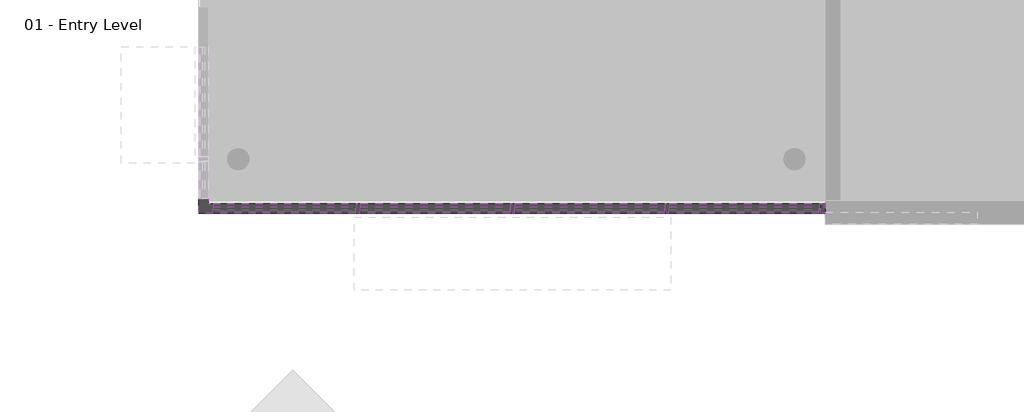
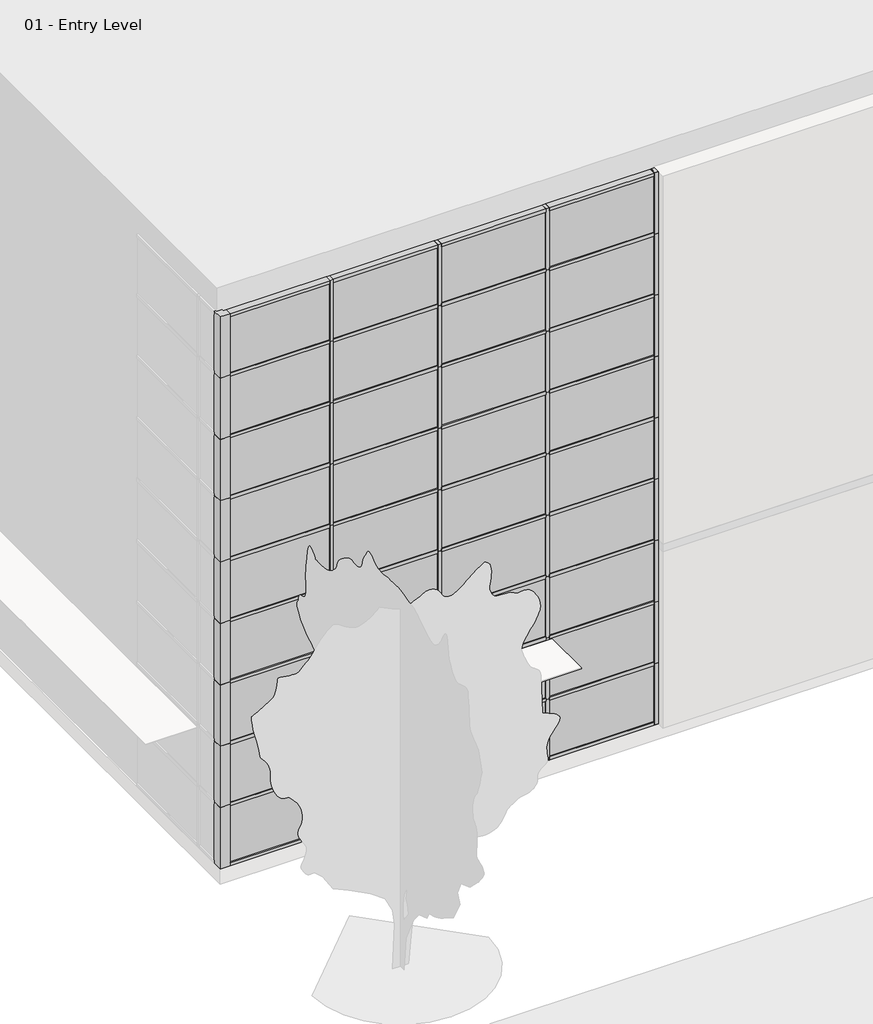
# One storey, part 1 of 34: 94 members, 36 plates.
"""IFC4 building model written with IfcOpenShell, lengths in millimetres."""

from ifc_helpers import new_model, si_unit, origin, place, context, project, spatial, transform, mapped, element, save
from components import member_6230916f, member_2b49869a, member_75074519, member_391b434c, member_9e90ae50, member_9822c4e5, member_b50b2218, system_panel_glazed_1b9d6098, system_panel_glazed_70da479d, system_panel_glazed_01db37db, system_panel_glazed_0a464ab8, system_panel_solid_b376696c, system_panel_solid_77e8b053, system_panel_solid_7d77b356, system_panel_solid_9c486990

model = new_model("IFC4")

# Units and contexts
model_context = context("Model", 3, world=origin())
ifc_project = project(units=[si_unit("LENGTHUNIT", "METRE", prefix="MILLI")], contexts=[model_context])

# Site, building, storey
site = spatial("IfcSite", under=ifc_project)
building = spatial("IfcBuilding", under=site)
storey = spatial("IfcBuildingStorey", under=building, Name="01 - Entry Level", Elevation=0.0)

# Members
placement = place(None, origin())
member_shape = member_6230916f(model_context)
element("IfcMember", 1, ObjectType="L Corner Mullion : 5\" x 5\" Corner", at=placement, inside=storey, context=model_context, shape_type="MappedRepresentation", body=[
    mapped(member_shape, transform((178.7207476, -47.7, 10972.8), x_axis=(-1.0, 0.0, 0.0), y_axis=(0.0, -1.0, 0.0), z_axis=(0.0, 0.0, 1.0))),
])
element("IfcMember", 2, ObjectType="L Corner Mullion : 5\" x 5\" Corner", at=placement, inside=storey, context=model_context, shape_type="MappedRepresentation", body=[
    mapped(member_shape, transform((178.7207476, -47.7, 1219.2), x_axis=(-1.0, 0.0, 0.0), y_axis=(0.0, -1.0, 0.0), z_axis=(0.0, 0.0, 1.0))),
])
element("IfcMember", 3, ObjectType="L Corner Mullion : 5\" x 5\" Corner", at=placement, inside=storey, context=model_context, shape_type="MappedRepresentation", body=[
    mapped(member_shape, transform((178.7207476, -47.7, 2438.4), x_axis=(-1.0, 0.0, 0.0), y_axis=(0.0, -1.0, 0.0), z_axis=(0.0, 0.0, 1.0))),
])
element("IfcMember", 4, ObjectType="L Corner Mullion : 5\" x 5\" Corner", at=placement, inside=storey, context=model_context, shape_type="MappedRepresentation", body=[
    mapped(member_shape, transform((178.7207476, -47.7, 3657.6), x_axis=(-1.0, 0.0, 0.0), y_axis=(0.0, -1.0, 0.0), z_axis=(0.0, 0.0, 1.0))),
])
element("IfcMember", 5, ObjectType="L Corner Mullion : 5\" x 5\" Corner", at=placement, inside=storey, context=model_context, shape_type="MappedRepresentation", body=[
    mapped(member_shape, transform((178.7207476, -47.7, 4876.8), x_axis=(-1.0, 0.0, 0.0), y_axis=(0.0, -1.0, 0.0), z_axis=(0.0, 0.0, 1.0))),
])
element("IfcMember", 6, ObjectType="L Corner Mullion : 5\" x 5\" Corner", at=placement, inside=storey, context=model_context, shape_type="MappedRepresentation", body=[
    mapped(member_shape, transform((178.7207476, -47.7, 6096.0), x_axis=(-1.0, 0.0, 0.0), y_axis=(0.0, -1.0, 0.0), z_axis=(0.0, 0.0, 1.0))),
])
element("IfcMember", 7, ObjectType="L Corner Mullion : 5\" x 5\" Corner", at=placement, inside=storey, context=model_context, shape_type="MappedRepresentation", body=[
    mapped(member_shape, transform((178.7207476, -47.7, 7315.2), x_axis=(-1.0, 0.0, 0.0), y_axis=(0.0, -1.0, 0.0), z_axis=(0.0, 0.0, 1.0))),
])
element("IfcMember", 8, ObjectType="L Corner Mullion : 5\" x 5\" Corner", at=placement, inside=storey, context=model_context, shape_type="MappedRepresentation", body=[
    mapped(member_shape, transform((178.7207476, -47.7, 8534.4), x_axis=(-1.0, 0.0, 0.0), y_axis=(0.0, -1.0, 0.0), z_axis=(0.0, 0.0, 1.0))),
])
element("IfcMember", 9, ObjectType="L Corner Mullion : 5\" x 5\" Corner", at=placement, inside=storey, context=model_context, shape_type="MappedRepresentation", body=[
    mapped(member_shape, transform((178.7207476, -47.7, 9753.6), x_axis=(-1.0, 0.0, 0.0), y_axis=(0.0, -1.0, 0.0), z_axis=(0.0, 0.0, 1.0))),
])
member_2_shape = member_2b49869a(model_context)
element("IfcMember", 10, ObjectType="Rectangular Mullion : 2.5\" x 5\" rectangular", at=placement, inside=storey, context=model_context, shape_type="MappedRepresentation", body=[
    mapped(member_2_shape, transform((2210.7207476, -47.7, 9753.6), x_axis=(1.0, 0.0, 0.0), y_axis=(0.0, -1.0, 0.0), z_axis=(0.0, 0.0, -1.0))),
])
element("IfcMember", 11, ObjectType="Rectangular Mullion : 2.5\" x 5\" rectangular", at=placement, inside=storey, context=model_context, shape_type="MappedRepresentation", body=[
    mapped(member_2_shape, transform((4242.7207476, -47.7, 9753.6), x_axis=(1.0, 0.0, 0.0), y_axis=(0.0, -1.0, 0.0), z_axis=(0.0, 0.0, -1.0))),
])
element("IfcMember", 12, ObjectType="Rectangular Mullion : 2.5\" x 5\" rectangular", at=placement, inside=storey, context=model_context, shape_type="MappedRepresentation", body=[
    mapped(member_2_shape, transform((6274.7207476, -47.7, 9753.6), x_axis=(1.0, 0.0, 0.0), y_axis=(0.0, -1.0, 0.0), z_axis=(0.0, 0.0, -1.0))),
])
element("IfcMember", 13, ObjectType="Rectangular Mullion : 2.5\" x 5\" rectangular", at=placement, inside=storey, context=model_context, shape_type="MappedRepresentation", body=[
    mapped(member_2_shape, transform((8306.7207476, -47.7, 9753.6), x_axis=(1.0, 0.0, 0.0), y_axis=(0.0, -1.0, 0.0), z_axis=(0.0, 0.0, -1.0))),
])
member_3_shape = member_75074519(model_context)
element("IfcMember", 14, ObjectType="Rectangular Mullion : 2.5\" x 5\" rectangular", at=placement, inside=storey, context=model_context, shape_type="MappedRepresentation", body=[
    mapped(member_3_shape, transform((8357.5207476, -47.7, 9753.6), x_axis=(1.0, 0.0, 0.0), y_axis=(0.0, -1.0, 0.0), z_axis=(0.0, 0.0, -1.0))),
])
member_4_shape = member_391b434c(model_context)
element("IfcMember", 15, ObjectType="Rectangular Mullion : 2.5\" x 5\" rectangular", at=placement, inside=storey, context=model_context, shape_type="MappedRepresentation", body=[
    mapped(member_4_shape, transform((4210.9707476, -47.7, 10972.8), x_axis=(0.0, 0.0, 1.0), y_axis=(0.0, -1.0, 0.0), z_axis=(1.0, 0.0, 0.0))),
])
element("IfcMember", 16, ObjectType="Rectangular Mullion : 2.5\" x 5\" rectangular", at=placement, inside=storey, context=model_context, shape_type="MappedRepresentation", body=[
    mapped(member_4_shape, transform((6242.9707476, -47.7, 10972.8), x_axis=(0.0, 0.0, 1.0), y_axis=(0.0, -1.0, 0.0), z_axis=(1.0, 0.0, 0.0))),
])
element("IfcMember", 17, ObjectType="Rectangular Mullion : 2.5\" x 5\" rectangular", at=placement, inside=storey, context=model_context, shape_type="MappedRepresentation", body=[
    mapped(member_4_shape, transform((8274.9707476, -47.7, 10972.8), x_axis=(0.0, 0.0, 1.0), y_axis=(0.0, -1.0, 0.0), z_axis=(1.0, 0.0, 0.0))),
])
element("IfcMember", 18, ObjectType="Rectangular Mullion : 2.5\" x 5\" rectangular", at=placement, inside=storey, context=model_context, shape_type="MappedRepresentation", body=[
    mapped(member_4_shape, transform((2242.4707476, -47.7, 0.0), x_axis=(0.0, 0.0, -1.0), y_axis=(0.0, -1.0, 0.0), z_axis=(-1.0, 0.0, 0.0))),
])
element("IfcMember", 19, ObjectType="Rectangular Mullion : 2.5\" x 5\" rectangular", at=placement, inside=storey, context=model_context, shape_type="MappedRepresentation", body=[
    mapped(member_4_shape, transform((4274.4707476, -47.7, 0.0), x_axis=(0.0, 0.0, -1.0), y_axis=(0.0, -1.0, 0.0), z_axis=(-1.0, 0.0, 0.0))),
])
element("IfcMember", 20, ObjectType="Rectangular Mullion : 2.5\" x 5\" rectangular", at=placement, inside=storey, context=model_context, shape_type="MappedRepresentation", body=[
    mapped(member_4_shape, transform((6306.4707476, -47.7, 0.0), x_axis=(0.0, 0.0, -1.0), y_axis=(0.0, -1.0, 0.0), z_axis=(-1.0, 0.0, 0.0))),
])
member_5_shape = member_9e90ae50(model_context)
element("IfcMember", 21, ObjectType="Rectangular Mullion : 2.5\" x 5\" rectangular", at=placement, inside=storey, context=model_context, shape_type="MappedRepresentation", body=[
    mapped(member_5_shape, transform((4210.9707476, -47.7, 1219.2), x_axis=(0.0, 0.0, 1.0), y_axis=(0.0, -1.0, 0.0), z_axis=(1.0, 0.0, 0.0))),
])
element("IfcMember", 22, ObjectType="Rectangular Mullion : 2.5\" x 5\" rectangular", at=placement, inside=storey, context=model_context, shape_type="MappedRepresentation", body=[
    mapped(member_5_shape, transform((6242.9707476, -47.7, 1219.2), x_axis=(0.0, 0.0, 1.0), y_axis=(0.0, -1.0, 0.0), z_axis=(1.0, 0.0, 0.0))),
])
element("IfcMember", 23, ObjectType="Rectangular Mullion : 2.5\" x 5\" rectangular", at=placement, inside=storey, context=model_context, shape_type="MappedRepresentation", body=[
    mapped(member_5_shape, transform((8274.9707476, -47.7, 1219.2), x_axis=(0.0, 0.0, 1.0), y_axis=(0.0, -1.0, 0.0), z_axis=(1.0, 0.0, 0.0))),
])
element("IfcMember", 24, ObjectType="Rectangular Mullion : 2.5\" x 5\" rectangular", at=placement, inside=storey, context=model_context, shape_type="MappedRepresentation", body=[
    mapped(member_5_shape, transform((4210.9707476, -47.7, 2438.4), x_axis=(0.0, 0.0, 1.0), y_axis=(0.0, -1.0, 0.0), z_axis=(1.0, 0.0, 0.0))),
])
element("IfcMember", 25, ObjectType="Rectangular Mullion : 2.5\" x 5\" rectangular", at=placement, inside=storey, context=model_context, shape_type="MappedRepresentation", body=[
    mapped(member_5_shape, transform((6242.9707476, -47.7, 2438.4), x_axis=(0.0, 0.0, 1.0), y_axis=(0.0, -1.0, 0.0), z_axis=(1.0, 0.0, 0.0))),
])
element("IfcMember", 26, ObjectType="Rectangular Mullion : 2.5\" x 5\" rectangular", at=placement, inside=storey, context=model_context, shape_type="MappedRepresentation", body=[
    mapped(member_5_shape, transform((8274.9707476, -47.7, 2438.4), x_axis=(0.0, 0.0, 1.0), y_axis=(0.0, -1.0, 0.0), z_axis=(1.0, 0.0, 0.0))),
])
element("IfcMember", 27, ObjectType="Rectangular Mullion : 2.5\" x 5\" rectangular", at=placement, inside=storey, context=model_context, shape_type="MappedRepresentation", body=[
    mapped(member_5_shape, transform((4210.9707476, -47.7, 3657.6), x_axis=(0.0, 0.0, 1.0), y_axis=(0.0, -1.0, 0.0), z_axis=(1.0, 0.0, 0.0))),
])
element("IfcMember", 28, ObjectType="Rectangular Mullion : 2.5\" x 5\" rectangular", at=placement, inside=storey, context=model_context, shape_type="MappedRepresentation", body=[
    mapped(member_5_shape, transform((6242.9707476, -47.7, 3657.6), x_axis=(0.0, 0.0, 1.0), y_axis=(0.0, -1.0, 0.0), z_axis=(1.0, 0.0, 0.0))),
])
element("IfcMember", 29, ObjectType="Rectangular Mullion : 2.5\" x 5\" rectangular", at=placement, inside=storey, context=model_context, shape_type="MappedRepresentation", body=[
    mapped(member_5_shape, transform((8274.9707476, -47.7, 3657.6), x_axis=(0.0, 0.0, 1.0), y_axis=(0.0, -1.0, 0.0), z_axis=(1.0, 0.0, 0.0))),
])
element("IfcMember", 30, ObjectType="Rectangular Mullion : 2.5\" x 5\" rectangular", at=placement, inside=storey, context=model_context, shape_type="MappedRepresentation", body=[
    mapped(member_5_shape, transform((4210.9707476, -47.7, 4876.8), x_axis=(0.0, 0.0, 1.0), y_axis=(0.0, -1.0, 0.0), z_axis=(1.0, 0.0, 0.0))),
])
element("IfcMember", 31, ObjectType="Rectangular Mullion : 2.5\" x 5\" rectangular", at=placement, inside=storey, context=model_context, shape_type="MappedRepresentation", body=[
    mapped(member_5_shape, transform((6242.9707476, -47.7, 4876.8), x_axis=(0.0, 0.0, 1.0), y_axis=(0.0, -1.0, 0.0), z_axis=(1.0, 0.0, 0.0))),
])
element("IfcMember", 32, ObjectType="Rectangular Mullion : 2.5\" x 5\" rectangular", at=placement, inside=storey, context=model_context, shape_type="MappedRepresentation", body=[
    mapped(member_5_shape, transform((8274.9707476, -47.7, 4876.8), x_axis=(0.0, 0.0, 1.0), y_axis=(0.0, -1.0, 0.0), z_axis=(1.0, 0.0, 0.0))),
])
element("IfcMember", 33, ObjectType="Rectangular Mullion : 2.5\" x 5\" rectangular", at=placement, inside=storey, context=model_context, shape_type="MappedRepresentation", body=[
    mapped(member_5_shape, transform((4210.9707476, -47.7, 6096.0), x_axis=(0.0, 0.0, 1.0), y_axis=(0.0, -1.0, 0.0), z_axis=(1.0, 0.0, 0.0))),
])
element("IfcMember", 34, ObjectType="Rectangular Mullion : 2.5\" x 5\" rectangular", at=placement, inside=storey, context=model_context, shape_type="MappedRepresentation", body=[
    mapped(member_5_shape, transform((6242.9707476, -47.7, 6096.0), x_axis=(0.0, 0.0, 1.0), y_axis=(0.0, -1.0, 0.0), z_axis=(1.0, 0.0, 0.0))),
])
element("IfcMember", 35, ObjectType="Rectangular Mullion : 2.5\" x 5\" rectangular", at=placement, inside=storey, context=model_context, shape_type="MappedRepresentation", body=[
    mapped(member_5_shape, transform((8274.9707476, -47.7, 6096.0), x_axis=(0.0, 0.0, 1.0), y_axis=(0.0, -1.0, 0.0), z_axis=(1.0, 0.0, 0.0))),
])
element("IfcMember", 36, ObjectType="Rectangular Mullion : 2.5\" x 5\" rectangular", at=placement, inside=storey, context=model_context, shape_type="MappedRepresentation", body=[
    mapped(member_5_shape, transform((4210.9707476, -47.7, 7315.2), x_axis=(0.0, 0.0, 1.0), y_axis=(0.0, -1.0, 0.0), z_axis=(1.0, 0.0, 0.0))),
])
element("IfcMember", 37, ObjectType="Rectangular Mullion : 2.5\" x 5\" rectangular", at=placement, inside=storey, context=model_context, shape_type="MappedRepresentation", body=[
    mapped(member_5_shape, transform((6242.9707476, -47.7, 7315.2), x_axis=(0.0, 0.0, 1.0), y_axis=(0.0, -1.0, 0.0), z_axis=(1.0, 0.0, 0.0))),
])
element("IfcMember", 38, ObjectType="Rectangular Mullion : 2.5\" x 5\" rectangular", at=placement, inside=storey, context=model_context, shape_type="MappedRepresentation", body=[
    mapped(member_5_shape, transform((8274.9707476, -47.7, 7315.2), x_axis=(0.0, 0.0, 1.0), y_axis=(0.0, -1.0, 0.0), z_axis=(1.0, 0.0, 0.0))),
])
element("IfcMember", 39, ObjectType="Rectangular Mullion : 2.5\" x 5\" rectangular", at=placement, inside=storey, context=model_context, shape_type="MappedRepresentation", body=[
    mapped(member_5_shape, transform((4210.9707476, -47.7, 8534.4), x_axis=(0.0, 0.0, 1.0), y_axis=(0.0, -1.0, 0.0), z_axis=(1.0, 0.0, 0.0))),
])
element("IfcMember", 40, ObjectType="Rectangular Mullion : 2.5\" x 5\" rectangular", at=placement, inside=storey, context=model_context, shape_type="MappedRepresentation", body=[
    mapped(member_5_shape, transform((6242.9707476, -47.7, 8534.4), x_axis=(0.0, 0.0, 1.0), y_axis=(0.0, -1.0, 0.0), z_axis=(1.0, 0.0, 0.0))),
])
element("IfcMember", 41, ObjectType="Rectangular Mullion : 2.5\" x 5\" rectangular", at=placement, inside=storey, context=model_context, shape_type="MappedRepresentation", body=[
    mapped(member_5_shape, transform((8274.9707476, -47.7, 8534.4), x_axis=(0.0, 0.0, 1.0), y_axis=(0.0, -1.0, 0.0), z_axis=(1.0, 0.0, 0.0))),
])
element("IfcMember", 42, ObjectType="Rectangular Mullion : 2.5\" x 5\" rectangular", at=placement, inside=storey, context=model_context, shape_type="MappedRepresentation", body=[
    mapped(member_5_shape, transform((4210.9707476, -47.7, 9753.6), x_axis=(0.0, 0.0, 1.0), y_axis=(0.0, -1.0, 0.0), z_axis=(1.0, 0.0, 0.0))),
])
element("IfcMember", 43, ObjectType="Rectangular Mullion : 2.5\" x 5\" rectangular", at=placement, inside=storey, context=model_context, shape_type="MappedRepresentation", body=[
    mapped(member_5_shape, transform((6242.9707476, -47.7, 9753.6), x_axis=(0.0, 0.0, 1.0), y_axis=(0.0, -1.0, 0.0), z_axis=(1.0, 0.0, 0.0))),
])
element("IfcMember", 44, ObjectType="Rectangular Mullion : 2.5\" x 5\" rectangular", at=placement, inside=storey, context=model_context, shape_type="MappedRepresentation", body=[
    mapped(member_5_shape, transform((8274.9707476, -47.7, 9753.6), x_axis=(0.0, 0.0, 1.0), y_axis=(0.0, -1.0, 0.0), z_axis=(1.0, 0.0, 0.0))),
])
element("IfcMember", 45, ObjectType="Rectangular Mullion : 2.5\" x 5\" rectangular", at=placement, inside=storey, context=model_context, shape_type="MappedRepresentation", body=[
    mapped(member_2_shape, transform((2210.7207476, -47.7, 0.0), x_axis=(1.0, 0.0, 0.0), y_axis=(0.0, -1.0, 0.0), z_axis=(0.0, 0.0, -1.0))),
])
element("IfcMember", 46, ObjectType="Rectangular Mullion : 2.5\" x 5\" rectangular", at=placement, inside=storey, context=model_context, shape_type="MappedRepresentation", body=[
    mapped(member_2_shape, transform((4242.7207476, -47.7, 0.0), x_axis=(1.0, 0.0, 0.0), y_axis=(0.0, -1.0, 0.0), z_axis=(0.0, 0.0, -1.0))),
])
element("IfcMember", 47, ObjectType="Rectangular Mullion : 2.5\" x 5\" rectangular", at=placement, inside=storey, context=model_context, shape_type="MappedRepresentation", body=[
    mapped(member_2_shape, transform((6274.7207476, -47.7, 0.0), x_axis=(1.0, 0.0, 0.0), y_axis=(0.0, -1.0, 0.0), z_axis=(0.0, 0.0, -1.0))),
])
element("IfcMember", 48, ObjectType="Rectangular Mullion : 2.5\" x 5\" rectangular", at=placement, inside=storey, context=model_context, shape_type="MappedRepresentation", body=[
    mapped(member_2_shape, transform((8306.7207476, -47.7, 0.0), x_axis=(1.0, 0.0, 0.0), y_axis=(0.0, -1.0, 0.0), z_axis=(0.0, 0.0, -1.0))),
])
element("IfcMember", 49, ObjectType="Rectangular Mullion : 2.5\" x 5\" rectangular", at=placement, inside=storey, context=model_context, shape_type="MappedRepresentation", body=[
    mapped(member_2_shape, transform((2210.7207476, -47.7, 1219.2), x_axis=(1.0, 0.0, 0.0), y_axis=(0.0, -1.0, 0.0), z_axis=(0.0, 0.0, -1.0))),
])
element("IfcMember", 50, ObjectType="Rectangular Mullion : 2.5\" x 5\" rectangular", at=placement, inside=storey, context=model_context, shape_type="MappedRepresentation", body=[
    mapped(member_2_shape, transform((4242.7207476, -47.7, 1219.2), x_axis=(1.0, 0.0, 0.0), y_axis=(0.0, -1.0, 0.0), z_axis=(0.0, 0.0, -1.0))),
])
element("IfcMember", 51, ObjectType="Rectangular Mullion : 2.5\" x 5\" rectangular", at=placement, inside=storey, context=model_context, shape_type="MappedRepresentation", body=[
    mapped(member_2_shape, transform((6274.7207476, -47.7, 1219.2), x_axis=(1.0, 0.0, 0.0), y_axis=(0.0, -1.0, 0.0), z_axis=(0.0, 0.0, -1.0))),
])
element("IfcMember", 52, ObjectType="Rectangular Mullion : 2.5\" x 5\" rectangular", at=placement, inside=storey, context=model_context, shape_type="MappedRepresentation", body=[
    mapped(member_2_shape, transform((2210.7207476, -47.7, 2438.4), x_axis=(1.0, 0.0, 0.0), y_axis=(0.0, -1.0, 0.0), z_axis=(0.0, 0.0, -1.0))),
])
element("IfcMember", 53, ObjectType="Rectangular Mullion : 2.5\" x 5\" rectangular", at=placement, inside=storey, context=model_context, shape_type="MappedRepresentation", body=[
    mapped(member_2_shape, transform((4242.7207476, -47.7, 2438.4), x_axis=(1.0, 0.0, 0.0), y_axis=(0.0, -1.0, 0.0), z_axis=(0.0, 0.0, -1.0))),
])
element("IfcMember", 54, ObjectType="Rectangular Mullion : 2.5\" x 5\" rectangular", at=placement, inside=storey, context=model_context, shape_type="MappedRepresentation", body=[
    mapped(member_2_shape, transform((6274.7207476, -47.7, 2438.4), x_axis=(1.0, 0.0, 0.0), y_axis=(0.0, -1.0, 0.0), z_axis=(0.0, 0.0, -1.0))),
])
element("IfcMember", 55, ObjectType="Rectangular Mullion : 2.5\" x 5\" rectangular", at=placement, inside=storey, context=model_context, shape_type="MappedRepresentation", body=[
    mapped(member_2_shape, transform((2210.7207476, -47.7, 3657.6), x_axis=(1.0, 0.0, 0.0), y_axis=(0.0, -1.0, 0.0), z_axis=(0.0, 0.0, -1.0))),
])
element("IfcMember", 56, ObjectType="Rectangular Mullion : 2.5\" x 5\" rectangular", at=placement, inside=storey, context=model_context, shape_type="MappedRepresentation", body=[
    mapped(member_2_shape, transform((4242.7207476, -47.7, 3657.6), x_axis=(1.0, 0.0, 0.0), y_axis=(0.0, -1.0, 0.0), z_axis=(0.0, 0.0, -1.0))),
])
element("IfcMember", 57, ObjectType="Rectangular Mullion : 2.5\" x 5\" rectangular", at=placement, inside=storey, context=model_context, shape_type="MappedRepresentation", body=[
    mapped(member_2_shape, transform((6274.7207476, -47.7, 3657.6), x_axis=(1.0, 0.0, 0.0), y_axis=(0.0, -1.0, 0.0), z_axis=(0.0, 0.0, -1.0))),
])
element("IfcMember", 58, ObjectType="Rectangular Mullion : 2.5\" x 5\" rectangular", at=placement, inside=storey, context=model_context, shape_type="MappedRepresentation", body=[
    mapped(member_2_shape, transform((2210.7207476, -47.7, 4876.8), x_axis=(1.0, 0.0, 0.0), y_axis=(0.0, -1.0, 0.0), z_axis=(0.0, 0.0, -1.0))),
])
element("IfcMember", 59, ObjectType="Rectangular Mullion : 2.5\" x 5\" rectangular", at=placement, inside=storey, context=model_context, shape_type="MappedRepresentation", body=[
    mapped(member_2_shape, transform((4242.7207476, -47.7, 4876.8), x_axis=(1.0, 0.0, 0.0), y_axis=(0.0, -1.0, 0.0), z_axis=(0.0, 0.0, -1.0))),
])
element("IfcMember", 60, ObjectType="Rectangular Mullion : 2.5\" x 5\" rectangular", at=placement, inside=storey, context=model_context, shape_type="MappedRepresentation", body=[
    mapped(member_2_shape, transform((6274.7207476, -47.7, 4876.8), x_axis=(1.0, 0.0, 0.0), y_axis=(0.0, -1.0, 0.0), z_axis=(0.0, 0.0, -1.0))),
])
element("IfcMember", 61, ObjectType="Rectangular Mullion : 2.5\" x 5\" rectangular", at=placement, inside=storey, context=model_context, shape_type="MappedRepresentation", body=[
    mapped(member_2_shape, transform((2210.7207476, -47.7, 6096.0), x_axis=(1.0, 0.0, 0.0), y_axis=(0.0, -1.0, 0.0), z_axis=(0.0, 0.0, -1.0))),
])
element("IfcMember", 62, ObjectType="Rectangular Mullion : 2.5\" x 5\" rectangular", at=placement, inside=storey, context=model_context, shape_type="MappedRepresentation", body=[
    mapped(member_2_shape, transform((4242.7207476, -47.7, 6096.0), x_axis=(1.0, 0.0, 0.0), y_axis=(0.0, -1.0, 0.0), z_axis=(0.0, 0.0, -1.0))),
])
element("IfcMember", 63, ObjectType="Rectangular Mullion : 2.5\" x 5\" rectangular", at=placement, inside=storey, context=model_context, shape_type="MappedRepresentation", body=[
    mapped(member_2_shape, transform((6274.7207476, -47.7, 6096.0), x_axis=(1.0, 0.0, 0.0), y_axis=(0.0, -1.0, 0.0), z_axis=(0.0, 0.0, -1.0))),
])
element("IfcMember", 64, ObjectType="Rectangular Mullion : 2.5\" x 5\" rectangular", at=placement, inside=storey, context=model_context, shape_type="MappedRepresentation", body=[
    mapped(member_2_shape, transform((2210.7207476, -47.7, 7315.2), x_axis=(1.0, 0.0, 0.0), y_axis=(0.0, -1.0, 0.0), z_axis=(0.0, 0.0, -1.0))),
])
element("IfcMember", 65, ObjectType="Rectangular Mullion : 2.5\" x 5\" rectangular", at=placement, inside=storey, context=model_context, shape_type="MappedRepresentation", body=[
    mapped(member_2_shape, transform((4242.7207476, -47.7, 7315.2), x_axis=(1.0, 0.0, 0.0), y_axis=(0.0, -1.0, 0.0), z_axis=(0.0, 0.0, -1.0))),
])
element("IfcMember", 66, ObjectType="Rectangular Mullion : 2.5\" x 5\" rectangular", at=placement, inside=storey, context=model_context, shape_type="MappedRepresentation", body=[
    mapped(member_2_shape, transform((6274.7207476, -47.7, 7315.2), x_axis=(1.0, 0.0, 0.0), y_axis=(0.0, -1.0, 0.0), z_axis=(0.0, 0.0, -1.0))),
])
element("IfcMember", 67, ObjectType="Rectangular Mullion : 2.5\" x 5\" rectangular", at=placement, inside=storey, context=model_context, shape_type="MappedRepresentation", body=[
    mapped(member_2_shape, transform((2210.7207476, -47.7, 8534.4), x_axis=(1.0, 0.0, 0.0), y_axis=(0.0, -1.0, 0.0), z_axis=(0.0, 0.0, -1.0))),
])
element("IfcMember", 68, ObjectType="Rectangular Mullion : 2.5\" x 5\" rectangular", at=placement, inside=storey, context=model_context, shape_type="MappedRepresentation", body=[
    mapped(member_2_shape, transform((4242.7207476, -47.7, 8534.4), x_axis=(1.0, 0.0, 0.0), y_axis=(0.0, -1.0, 0.0), z_axis=(0.0, 0.0, -1.0))),
])
element("IfcMember", 69, ObjectType="Rectangular Mullion : 2.5\" x 5\" rectangular", at=placement, inside=storey, context=model_context, shape_type="MappedRepresentation", body=[
    mapped(member_2_shape, transform((6274.7207476, -47.7, 8534.4), x_axis=(1.0, 0.0, 0.0), y_axis=(0.0, -1.0, 0.0), z_axis=(0.0, 0.0, -1.0))),
])
element("IfcMember", 70, ObjectType="Rectangular Mullion : 2.5\" x 5\" rectangular", at=placement, inside=storey, context=model_context, shape_type="MappedRepresentation", body=[
    mapped(member_2_shape, transform((8306.7207476, -47.7, 1219.2), x_axis=(1.0, 0.0, 0.0), y_axis=(0.0, -1.0, 0.0), z_axis=(0.0, 0.0, -1.0))),
])
element("IfcMember", 71, ObjectType="Rectangular Mullion : 2.5\" x 5\" rectangular", at=placement, inside=storey, context=model_context, shape_type="MappedRepresentation", body=[
    mapped(member_2_shape, transform((8306.7207476, -47.7, 2438.4), x_axis=(1.0, 0.0, 0.0), y_axis=(0.0, -1.0, 0.0), z_axis=(0.0, 0.0, -1.0))),
])
element("IfcMember", 72, ObjectType="Rectangular Mullion : 2.5\" x 5\" rectangular", at=placement, inside=storey, context=model_context, shape_type="MappedRepresentation", body=[
    mapped(member_2_shape, transform((8306.7207476, -47.7, 3657.6), x_axis=(1.0, 0.0, 0.0), y_axis=(0.0, -1.0, 0.0), z_axis=(0.0, 0.0, -1.0))),
])
element("IfcMember", 73, ObjectType="Rectangular Mullion : 2.5\" x 5\" rectangular", at=placement, inside=storey, context=model_context, shape_type="MappedRepresentation", body=[
    mapped(member_2_shape, transform((8306.7207476, -47.7, 4876.8), x_axis=(1.0, 0.0, 0.0), y_axis=(0.0, -1.0, 0.0), z_axis=(0.0, 0.0, -1.0))),
])
element("IfcMember", 74, ObjectType="Rectangular Mullion : 2.5\" x 5\" rectangular", at=placement, inside=storey, context=model_context, shape_type="MappedRepresentation", body=[
    mapped(member_2_shape, transform((8306.7207476, -47.7, 6096.0), x_axis=(1.0, 0.0, 0.0), y_axis=(0.0, -1.0, 0.0), z_axis=(0.0, 0.0, -1.0))),
])
element("IfcMember", 75, ObjectType="Rectangular Mullion : 2.5\" x 5\" rectangular", at=placement, inside=storey, context=model_context, shape_type="MappedRepresentation", body=[
    mapped(member_2_shape, transform((8306.7207476, -47.7, 7315.2), x_axis=(1.0, 0.0, 0.0), y_axis=(0.0, -1.0, 0.0), z_axis=(0.0, 0.0, -1.0))),
])
element("IfcMember", 76, ObjectType="Rectangular Mullion : 2.5\" x 5\" rectangular", at=placement, inside=storey, context=model_context, shape_type="MappedRepresentation", body=[
    mapped(member_2_shape, transform((8306.7207476, -47.7, 8534.4), x_axis=(1.0, 0.0, 0.0), y_axis=(0.0, -1.0, 0.0), z_axis=(0.0, 0.0, -1.0))),
])
element("IfcMember", 77, ObjectType="Rectangular Mullion : 2.5\" x 5\" rectangular", at=placement, inside=storey, context=model_context, shape_type="MappedRepresentation", body=[
    mapped(member_3_shape, transform((8357.5207476, -47.7, 0.0), x_axis=(1.0, 0.0, 0.0), y_axis=(0.0, -1.0, 0.0), z_axis=(0.0, 0.0, -1.0))),
])
element("IfcMember", 78, ObjectType="Rectangular Mullion : 2.5\" x 5\" rectangular", at=placement, inside=storey, context=model_context, shape_type="MappedRepresentation", body=[
    mapped(member_3_shape, transform((8357.5207476, -47.7, 1219.2), x_axis=(1.0, 0.0, 0.0), y_axis=(0.0, -1.0, 0.0), z_axis=(0.0, 0.0, -1.0))),
])
element("IfcMember", 79, ObjectType="Rectangular Mullion : 2.5\" x 5\" rectangular", at=placement, inside=storey, context=model_context, shape_type="MappedRepresentation", body=[
    mapped(member_3_shape, transform((8357.5207476, -47.7, 2438.4), x_axis=(1.0, 0.0, 0.0), y_axis=(0.0, -1.0, 0.0), z_axis=(0.0, 0.0, -1.0))),
])
element("IfcMember", 80, ObjectType="Rectangular Mullion : 2.5\" x 5\" rectangular", at=placement, inside=storey, context=model_context, shape_type="MappedRepresentation", body=[
    mapped(member_3_shape, transform((8357.5207476, -47.7, 3657.6), x_axis=(1.0, 0.0, 0.0), y_axis=(0.0, -1.0, 0.0), z_axis=(0.0, 0.0, -1.0))),
])
element("IfcMember", 81, ObjectType="Rectangular Mullion : 2.5\" x 5\" rectangular", at=placement, inside=storey, context=model_context, shape_type="MappedRepresentation", body=[
    mapped(member_3_shape, transform((8357.5207476, -47.7, 4876.8), x_axis=(1.0, 0.0, 0.0), y_axis=(0.0, -1.0, 0.0), z_axis=(0.0, 0.0, -1.0))),
])
element("IfcMember", 82, ObjectType="Rectangular Mullion : 2.5\" x 5\" rectangular", at=placement, inside=storey, context=model_context, shape_type="MappedRepresentation", body=[
    mapped(member_3_shape, transform((8357.5207476, -47.7, 6096.0), x_axis=(1.0, 0.0, 0.0), y_axis=(0.0, -1.0, 0.0), z_axis=(0.0, 0.0, -1.0))),
])
element("IfcMember", 83, ObjectType="Rectangular Mullion : 2.5\" x 5\" rectangular", at=placement, inside=storey, context=model_context, shape_type="MappedRepresentation", body=[
    mapped(member_3_shape, transform((8357.5207476, -47.7, 7315.2), x_axis=(1.0, 0.0, 0.0), y_axis=(0.0, -1.0, 0.0), z_axis=(0.0, 0.0, -1.0))),
])
element("IfcMember", 84, ObjectType="Rectangular Mullion : 2.5\" x 5\" rectangular", at=placement, inside=storey, context=model_context, shape_type="MappedRepresentation", body=[
    mapped(member_3_shape, transform((8357.5207476, -47.7, 8534.4), x_axis=(1.0, 0.0, 0.0), y_axis=(0.0, -1.0, 0.0), z_axis=(0.0, 0.0, -1.0))),
])
member_6_shape = member_9822c4e5(model_context)
element("IfcMember", 85, ObjectType="Rectangular Mullion : 2.5\" x 5\" rectangular", at=placement, inside=storey, context=model_context, shape_type="MappedRepresentation", body=[
    mapped(member_6_shape, transform((2178.9707476, -47.7, 10972.8), x_axis=(0.0, 0.0, 1.0), y_axis=(0.0, -1.0, 0.0), z_axis=(1.0, 0.0, 0.0))),
])
element("IfcMember", 86, ObjectType="Rectangular Mullion : 2.5\" x 5\" rectangular", at=placement, inside=storey, context=model_context, shape_type="MappedRepresentation", body=[
    mapped(member_6_shape, transform((305.7207476, -47.7, 0.0), x_axis=(0.0, 0.0, -1.0), y_axis=(0.0, -1.0, 0.0), z_axis=(-1.0, 0.0, 0.0))),
])
member_7_shape = member_b50b2218(model_context)
element("IfcMember", 87, ObjectType="Rectangular Mullion : 2.5\" x 5\" rectangular", at=placement, inside=storey, context=model_context, shape_type="MappedRepresentation", body=[
    mapped(member_7_shape, transform((2178.9707476, -47.7, 1219.2), x_axis=(0.0, 0.0, 1.0), y_axis=(0.0, -1.0, 0.0), z_axis=(1.0, 0.0, 0.0))),
])
element("IfcMember", 88, ObjectType="Rectangular Mullion : 2.5\" x 5\" rectangular", at=placement, inside=storey, context=model_context, shape_type="MappedRepresentation", body=[
    mapped(member_7_shape, transform((2178.9707476, -47.7, 2438.4), x_axis=(0.0, 0.0, 1.0), y_axis=(0.0, -1.0, 0.0), z_axis=(1.0, 0.0, 0.0))),
])
element("IfcMember", 89, ObjectType="Rectangular Mullion : 2.5\" x 5\" rectangular", at=placement, inside=storey, context=model_context, shape_type="MappedRepresentation", body=[
    mapped(member_7_shape, transform((2178.9707476, -47.7, 3657.6), x_axis=(0.0, 0.0, 1.0), y_axis=(0.0, -1.0, 0.0), z_axis=(1.0, 0.0, 0.0))),
])
element("IfcMember", 90, ObjectType="Rectangular Mullion : 2.5\" x 5\" rectangular", at=placement, inside=storey, context=model_context, shape_type="MappedRepresentation", body=[
    mapped(member_7_shape, transform((2178.9707476, -47.7, 4876.8), x_axis=(0.0, 0.0, 1.0), y_axis=(0.0, -1.0, 0.0), z_axis=(1.0, 0.0, 0.0))),
])
element("IfcMember", 91, ObjectType="Rectangular Mullion : 2.5\" x 5\" rectangular", at=placement, inside=storey, context=model_context, shape_type="MappedRepresentation", body=[
    mapped(member_7_shape, transform((2178.9707476, -47.7, 6096.0), x_axis=(0.0, 0.0, 1.0), y_axis=(0.0, -1.0, 0.0), z_axis=(1.0, 0.0, 0.0))),
])
element("IfcMember", 92, ObjectType="Rectangular Mullion : 2.5\" x 5\" rectangular", at=placement, inside=storey, context=model_context, shape_type="MappedRepresentation", body=[
    mapped(member_7_shape, transform((2178.9707476, -47.7, 7315.2), x_axis=(0.0, 0.0, 1.0), y_axis=(0.0, -1.0, 0.0), z_axis=(1.0, 0.0, 0.0))),
])
element("IfcMember", 93, ObjectType="Rectangular Mullion : 2.5\" x 5\" rectangular", at=placement, inside=storey, context=model_context, shape_type="MappedRepresentation", body=[
    mapped(member_7_shape, transform((2178.9707476, -47.7, 8534.4), x_axis=(0.0, 0.0, 1.0), y_axis=(0.0, -1.0, 0.0), z_axis=(1.0, 0.0, 0.0))),
])
element("IfcMember", 94, ObjectType="Rectangular Mullion : 2.5\" x 5\" rectangular", at=placement, inside=storey, context=model_context, shape_type="MappedRepresentation", body=[
    mapped(member_7_shape, transform((2178.9707476, -47.7, 9753.6), x_axis=(0.0, 0.0, 1.0), y_axis=(0.0, -1.0, 0.0), z_axis=(1.0, 0.0, 0.0))),
])

# Plates
system_panel_glazed_shape = system_panel_glazed_1b9d6098(model_context)
element("IfcPlate", 95, ObjectType="System Panel : Glazed", at=placement, inside=storey, context=model_context, shape_type="MappedRepresentation", body=[
    mapped(system_panel_glazed_shape, transform((3226.7207476, -47.7, 63.5), x_axis=(1.0, 0.0, 0.0), y_axis=(0.0, 1.0, 0.0), z_axis=(0.0, 0.0, 1.0))),
])
element("IfcPlate", 96, ObjectType="System Panel : Glazed", at=placement, inside=storey, context=model_context, shape_type="MappedRepresentation", body=[
    mapped(system_panel_glazed_shape, transform((5258.7207476, -47.7, 63.5), x_axis=(1.0, 0.0, 0.0), y_axis=(0.0, 1.0, 0.0), z_axis=(0.0, 0.0, 1.0))),
])
element("IfcPlate", 97, ObjectType="System Panel : Glazed", at=placement, inside=storey, context=model_context, shape_type="MappedRepresentation", body=[
    mapped(system_panel_glazed_shape, transform((7290.7207476, -47.7, 63.5), x_axis=(1.0, 0.0, 0.0), y_axis=(0.0, 1.0, 0.0), z_axis=(0.0, 0.0, 1.0))),
])
system_panel_glazed_2_shape = system_panel_glazed_70da479d(model_context)
element("IfcPlate", 98, ObjectType="System Panel : Glazed", at=placement, inside=storey, context=model_context, shape_type="MappedRepresentation", body=[
    mapped(system_panel_glazed_2_shape, transform((3226.7207476, -47.7, 1250.95), x_axis=(1.0, 0.0, 0.0), y_axis=(0.0, 1.0, 0.0), z_axis=(0.0, 0.0, 1.0))),
])
element("IfcPlate", 99, ObjectType="System Panel : Glazed", at=placement, inside=storey, context=model_context, shape_type="MappedRepresentation", body=[
    mapped(system_panel_glazed_2_shape, transform((5258.7207476, -47.7, 1250.95), x_axis=(1.0, 0.0, 0.0), y_axis=(0.0, 1.0, 0.0), z_axis=(0.0, 0.0, 1.0))),
])
element("IfcPlate", 100, ObjectType="System Panel : Glazed", at=placement, inside=storey, context=model_context, shape_type="MappedRepresentation", body=[
    mapped(system_panel_glazed_2_shape, transform((7290.7207476, -47.7, 1250.95), x_axis=(1.0, 0.0, 0.0), y_axis=(0.0, 1.0, 0.0), z_axis=(0.0, 0.0, 1.0))),
])
element("IfcPlate", 101, ObjectType="System Panel : Glazed", at=placement, inside=storey, context=model_context, shape_type="MappedRepresentation", body=[
    mapped(system_panel_glazed_2_shape, transform((3226.7207476, -47.7, 3689.35), x_axis=(1.0, 0.0, 0.0), y_axis=(0.0, 1.0, 0.0), z_axis=(0.0, 0.0, 1.0))),
])
element("IfcPlate", 102, ObjectType="System Panel : Glazed", at=placement, inside=storey, context=model_context, shape_type="MappedRepresentation", body=[
    mapped(system_panel_glazed_2_shape, transform((5258.7207476, -47.7, 3689.35), x_axis=(1.0, 0.0, 0.0), y_axis=(0.0, 1.0, 0.0), z_axis=(0.0, 0.0, 1.0))),
])
element("IfcPlate", 103, ObjectType="System Panel : Glazed", at=placement, inside=storey, context=model_context, shape_type="MappedRepresentation", body=[
    mapped(system_panel_glazed_2_shape, transform((7290.7207476, -47.7, 3689.35), x_axis=(1.0, 0.0, 0.0), y_axis=(0.0, 1.0, 0.0), z_axis=(0.0, 0.0, 1.0))),
])
element("IfcPlate", 104, ObjectType="System Panel : Glazed", at=placement, inside=storey, context=model_context, shape_type="MappedRepresentation", body=[
    mapped(system_panel_glazed_2_shape, transform((3226.7207476, -47.7, 4908.55), x_axis=(1.0, 0.0, 0.0), y_axis=(0.0, 1.0, 0.0), z_axis=(0.0, 0.0, 1.0))),
])
element("IfcPlate", 105, ObjectType="System Panel : Glazed", at=placement, inside=storey, context=model_context, shape_type="MappedRepresentation", body=[
    mapped(system_panel_glazed_2_shape, transform((5258.7207476, -47.7, 4908.55), x_axis=(1.0, 0.0, 0.0), y_axis=(0.0, 1.0, 0.0), z_axis=(0.0, 0.0, 1.0))),
])
element("IfcPlate", 106, ObjectType="System Panel : Glazed", at=placement, inside=storey, context=model_context, shape_type="MappedRepresentation", body=[
    mapped(system_panel_glazed_2_shape, transform((7290.7207476, -47.7, 4908.55), x_axis=(1.0, 0.0, 0.0), y_axis=(0.0, 1.0, 0.0), z_axis=(0.0, 0.0, 1.0))),
])
element("IfcPlate", 107, ObjectType="System Panel : Glazed", at=placement, inside=storey, context=model_context, shape_type="MappedRepresentation", body=[
    mapped(system_panel_glazed_2_shape, transform((3226.7207476, -47.7, 7346.95), x_axis=(1.0, 0.0, 0.0), y_axis=(0.0, 1.0, 0.0), z_axis=(0.0, 0.0, 1.0))),
])
element("IfcPlate", 108, ObjectType="System Panel : Glazed", at=placement, inside=storey, context=model_context, shape_type="MappedRepresentation", body=[
    mapped(system_panel_glazed_2_shape, transform((5258.7207476, -47.7, 7346.95), x_axis=(1.0, 0.0, 0.0), y_axis=(0.0, 1.0, 0.0), z_axis=(0.0, 0.0, 1.0))),
])
element("IfcPlate", 109, ObjectType="System Panel : Glazed", at=placement, inside=storey, context=model_context, shape_type="MappedRepresentation", body=[
    mapped(system_panel_glazed_2_shape, transform((7290.7207476, -47.7, 7346.95), x_axis=(1.0, 0.0, 0.0), y_axis=(0.0, 1.0, 0.0), z_axis=(0.0, 0.0, 1.0))),
])
element("IfcPlate", 110, ObjectType="System Panel : Glazed", at=placement, inside=storey, context=model_context, shape_type="MappedRepresentation", body=[
    mapped(system_panel_glazed_2_shape, transform((3226.7207476, -47.7, 8566.15), x_axis=(1.0, 0.0, 0.0), y_axis=(0.0, 1.0, 0.0), z_axis=(0.0, 0.0, 1.0))),
])
element("IfcPlate", 111, ObjectType="System Panel : Glazed", at=placement, inside=storey, context=model_context, shape_type="MappedRepresentation", body=[
    mapped(system_panel_glazed_2_shape, transform((5258.7207476, -47.7, 8566.15), x_axis=(1.0, 0.0, 0.0), y_axis=(0.0, 1.0, 0.0), z_axis=(0.0, 0.0, 1.0))),
])
element("IfcPlate", 112, ObjectType="System Panel : Glazed", at=placement, inside=storey, context=model_context, shape_type="MappedRepresentation", body=[
    mapped(system_panel_glazed_2_shape, transform((7290.7207476, -47.7, 8566.15), x_axis=(1.0, 0.0, 0.0), y_axis=(0.0, 1.0, 0.0), z_axis=(0.0, 0.0, 1.0))),
])
system_panel_glazed_3_shape = system_panel_glazed_01db37db(model_context)
element("IfcPlate", 113, ObjectType="System Panel : Glazed", at=placement, inside=storey, context=model_context, shape_type="MappedRepresentation", body=[
    mapped(system_panel_glazed_3_shape, transform((1242.3457476, -47.7, 63.5), x_axis=(1.0, 0.0, 0.0), y_axis=(0.0, 1.0, 0.0), z_axis=(0.0, 0.0, 1.0))),
])
system_panel_glazed_4_shape = system_panel_glazed_0a464ab8(model_context)
element("IfcPlate", 114, ObjectType="System Panel : Glazed", at=placement, inside=storey, context=model_context, shape_type="MappedRepresentation", body=[
    mapped(system_panel_glazed_4_shape, transform((1242.3457476, -47.7, 1250.95), x_axis=(1.0, 0.0, 0.0), y_axis=(0.0, 1.0, 0.0), z_axis=(0.0, 0.0, 1.0))),
])
element("IfcPlate", 115, ObjectType="System Panel : Glazed", at=placement, inside=storey, context=model_context, shape_type="MappedRepresentation", body=[
    mapped(system_panel_glazed_4_shape, transform((1242.3457476, -47.7, 3689.35), x_axis=(1.0, 0.0, 0.0), y_axis=(0.0, 1.0, 0.0), z_axis=(0.0, 0.0, 1.0))),
])
element("IfcPlate", 116, ObjectType="System Panel : Glazed", at=placement, inside=storey, context=model_context, shape_type="MappedRepresentation", body=[
    mapped(system_panel_glazed_4_shape, transform((1242.3457476, -47.7, 4908.55), x_axis=(1.0, 0.0, 0.0), y_axis=(0.0, 1.0, 0.0), z_axis=(0.0, 0.0, 1.0))),
])
element("IfcPlate", 117, ObjectType="System Panel : Glazed", at=placement, inside=storey, context=model_context, shape_type="MappedRepresentation", body=[
    mapped(system_panel_glazed_4_shape, transform((1242.3457476, -47.7, 7346.95), x_axis=(1.0, 0.0, 0.0), y_axis=(0.0, 1.0, 0.0), z_axis=(0.0, 0.0, 1.0))),
])
element("IfcPlate", 118, ObjectType="System Panel : Glazed", at=placement, inside=storey, context=model_context, shape_type="MappedRepresentation", body=[
    mapped(system_panel_glazed_4_shape, transform((1242.3457476, -47.7, 8566.15), x_axis=(1.0, 0.0, 0.0), y_axis=(0.0, 1.0, 0.0), z_axis=(0.0, 0.0, 1.0))),
])
system_panel_solid_shape = system_panel_solid_b376696c(model_context)
element("IfcPlate", 119, ObjectType="System Panel : Solid", at=placement, inside=storey, context=model_context, shape_type="MappedRepresentation", body=[
    mapped(system_panel_solid_shape, transform((3226.7207476, -47.7, 9785.35), x_axis=(1.0, 0.0, 0.0), y_axis=(0.0, 1.0, 0.0), z_axis=(0.0, 0.0, 1.0))),
])
element("IfcPlate", 120, ObjectType="System Panel : Solid", at=placement, inside=storey, context=model_context, shape_type="MappedRepresentation", body=[
    mapped(system_panel_solid_shape, transform((5258.7207476, -47.7, 9785.35), x_axis=(1.0, 0.0, 0.0), y_axis=(0.0, 1.0, 0.0), z_axis=(0.0, 0.0, 1.0))),
])
element("IfcPlate", 121, ObjectType="System Panel : Solid", at=placement, inside=storey, context=model_context, shape_type="MappedRepresentation", body=[
    mapped(system_panel_solid_shape, transform((7290.7207476, -47.7, 9785.35), x_axis=(1.0, 0.0, 0.0), y_axis=(0.0, 1.0, 0.0), z_axis=(0.0, 0.0, 1.0))),
])
system_panel_solid_2_shape = system_panel_solid_77e8b053(model_context)
element("IfcPlate", 122, ObjectType="System Panel : Solid", at=placement, inside=storey, context=model_context, shape_type="MappedRepresentation", body=[
    mapped(system_panel_solid_2_shape, transform((3226.7207476, -47.7, 2470.15), x_axis=(1.0, 0.0, 0.0), y_axis=(0.0, 1.0, 0.0), z_axis=(0.0, 0.0, 1.0))),
])
element("IfcPlate", 123, ObjectType="System Panel : Solid", at=placement, inside=storey, context=model_context, shape_type="MappedRepresentation", body=[
    mapped(system_panel_solid_2_shape, transform((5258.7207476, -47.7, 2470.15), x_axis=(1.0, 0.0, 0.0), y_axis=(0.0, 1.0, 0.0), z_axis=(0.0, 0.0, 1.0))),
])
element("IfcPlate", 124, ObjectType="System Panel : Solid", at=placement, inside=storey, context=model_context, shape_type="MappedRepresentation", body=[
    mapped(system_panel_solid_2_shape, transform((7290.7207476, -47.7, 2470.15), x_axis=(1.0, 0.0, 0.0), y_axis=(0.0, 1.0, 0.0), z_axis=(0.0, 0.0, 1.0))),
])
element("IfcPlate", 125, ObjectType="System Panel : Solid", at=placement, inside=storey, context=model_context, shape_type="MappedRepresentation", body=[
    mapped(system_panel_solid_2_shape, transform((3226.7207476, -47.7, 6127.75), x_axis=(1.0, 0.0, 0.0), y_axis=(0.0, 1.0, 0.0), z_axis=(0.0, 0.0, 1.0))),
])
element("IfcPlate", 126, ObjectType="System Panel : Solid", at=placement, inside=storey, context=model_context, shape_type="MappedRepresentation", body=[
    mapped(system_panel_solid_2_shape, transform((5258.7207476, -47.7, 6127.75), x_axis=(1.0, 0.0, 0.0), y_axis=(0.0, 1.0, 0.0), z_axis=(0.0, 0.0, 1.0))),
])
element("IfcPlate", 127, ObjectType="System Panel : Solid", at=placement, inside=storey, context=model_context, shape_type="MappedRepresentation", body=[
    mapped(system_panel_solid_2_shape, transform((7290.7207476, -47.7, 6127.75), x_axis=(1.0, 0.0, 0.0), y_axis=(0.0, 1.0, 0.0), z_axis=(0.0, 0.0, 1.0))),
])
system_panel_solid_3_shape = system_panel_solid_7d77b356(model_context)
element("IfcPlate", 128, ObjectType="System Panel : Solid", at=placement, inside=storey, context=model_context, shape_type="MappedRepresentation", body=[
    mapped(system_panel_solid_3_shape, transform((1242.3457476, -47.7, 2470.15), x_axis=(1.0, 0.0, 0.0), y_axis=(0.0, 1.0, 0.0), z_axis=(0.0, 0.0, 1.0))),
])
element("IfcPlate", 129, ObjectType="System Panel : Solid", at=placement, inside=storey, context=model_context, shape_type="MappedRepresentation", body=[
    mapped(system_panel_solid_3_shape, transform((1242.3457476, -47.7, 6127.75), x_axis=(1.0, 0.0, 0.0), y_axis=(0.0, 1.0, 0.0), z_axis=(0.0, 0.0, 1.0))),
])
system_panel_solid_4_shape = system_panel_solid_9c486990(model_context)
element("IfcPlate", 130, ObjectType="System Panel : Solid", at=placement, inside=storey, context=model_context, shape_type="MappedRepresentation", body=[
    mapped(system_panel_solid_4_shape, transform((1242.3457476, -47.7, 9785.35), x_axis=(1.0, 0.0, 0.0), y_axis=(0.0, 1.0, 0.0), z_axis=(0.0, 0.0, 1.0))),
])

save(model, "model.ifc")
